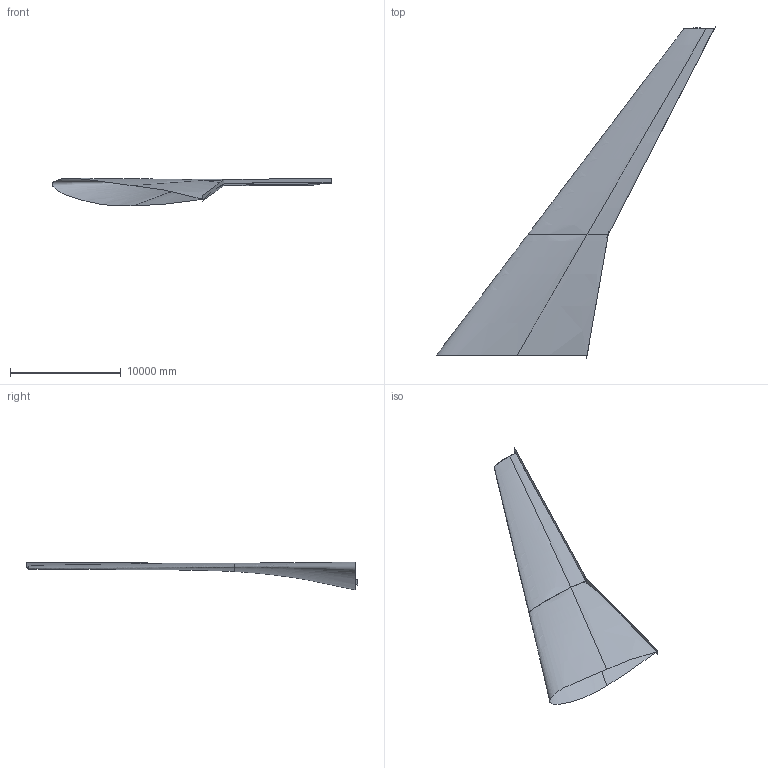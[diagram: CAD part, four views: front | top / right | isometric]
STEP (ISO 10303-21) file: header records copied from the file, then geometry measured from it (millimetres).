
FILE_DESCRIPTION((''),'2;1');
FILE_NAME('','2021-12-15T19:36:23',(''),(''),'','CADfix','');
FILE_SCHEMA(('AUTOMOTIVE_DESIGN { 1 0 10303 214 1 1 1 1 }'));
Bounding box: 25230.62 x 30001.76 x 2528.55 mm (x, y, z)
Surface area: 443270486 mm2 (no closed solid volume)
Topology: 0 solids, 0 shells, 9 faces, 36 edges, 35 vertices
Faces by surface type: bspline 9
Entity records: 60408 total; most frequent: CARTESIAN_POINT 60380, B_SPLINE_SURFACE_WITH_KNOTS 9, DIMENSIONAL_EXPONENTS 2, PLANE_ANGLE_MEASURE_WITH_UNIT 1, LENGTH_MEASURE_WITH_UNIT 1, UNCERTAINTY_MEASURE_WITH_UNIT 1, GEOMETRIC_SET 1, GEOMETRICALLY_BOUNDED_SURFACE_SHAPE_REPRESENTATION 1
